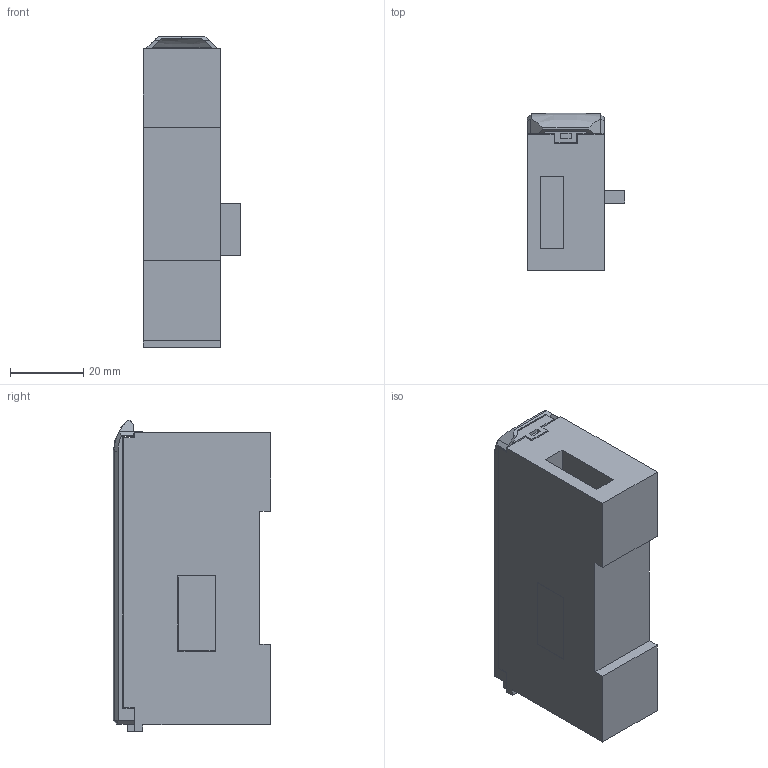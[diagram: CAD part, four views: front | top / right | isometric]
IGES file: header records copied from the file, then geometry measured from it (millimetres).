
Start section: SolidWorks IGES file using analytic representation for surfaces
Global section: file name: C:\catalog\hg-sc113.IGS; native system: SolidWorks 2010; preprocessor: SolidWorks 2010; author: 90C1105; date: 151002.204021; units: millimetre
Bounding box: 26.7 x 43.07 x 85.3 mm (x, y, z)
Surface area: 17769.5 mm2 (no closed solid volume)
Topology: 0 solids, 0 shells, 189 faces, 999 edges, 999 vertices
Faces by surface type: bspline 186, revolution 3
